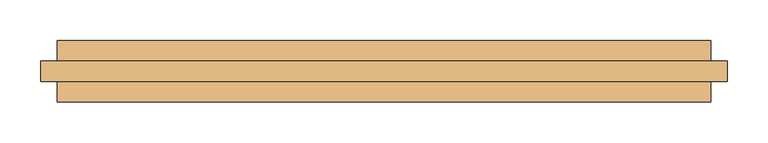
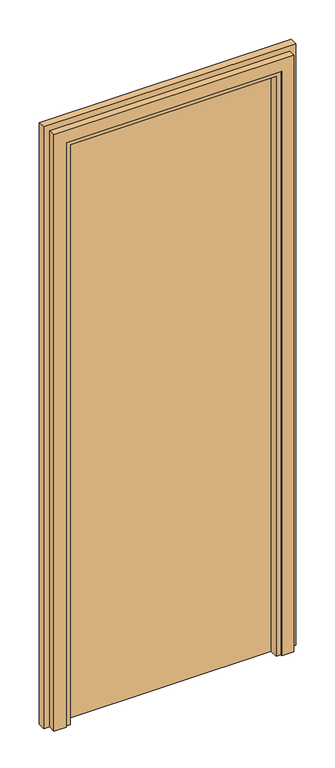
"""IFC4 building model written with IfcOpenShell, lengths in millimetres: door geometry, VERTI AERO - dveřní panel : AERO - dveřní panel."""

from ifc_helpers import new_model, si_unit, origin, origin_with_axes, place, context, project, spatial, polyline, outline, extrude, faceted_brep, source, transform, mapped, element, save


def door_f3fbb11f(model_context):
    return source(origin(), model_context, "Body", "SolidModel", [
        extrude(outline(polyline([(359.0, 37.5), (359.0, -2.5), (-359.0, -2.5), (-359.0, 37.5), (359.0, 37.5)])), origin_with_axes(), (0.0, 0.0, 1.0), 2084.0),
        faceted_brep([(-359.0, -37.5, 0.0), (-400.0, -37.5, 0.0), (-400.0, -12.5, 0.0), (-420.0, -12.5, 0.0), (-420.0, 12.5, 0.0), (-400.0, 12.5, 0.0), (-400.0, 37.5, 0.0), (-359.0, 37.5, 0.0), (-359.0, -2.5, 0.0), (-343.0, -2.5, 0.0), (-343.0, -32.5, 0.0), (-359.0, -32.5, 0.0), (-359.0, -37.5, 2059.0), (359.0, -37.5, 2059.0), (359.0, -37.5, 0.0), (400.0, -37.5, 0.0), (400.0, -37.5, 2100.0), (-400.0, -37.5, 2100.0), (-400.0, -12.5, 2100.0), (400.0, -12.5, 2100.0), (400.0, -12.5, 0.0), (420.0, -12.5, 0.0), (420.0, -12.5, 2120.0), (-420.0, -12.5, 2120.0), (-420.0, 12.5, 2120.0), (420.0, 12.5, 2120.0), (420.0, 12.5, 0.0), (400.0, 12.5, 0.0), (400.0, 12.5, 2100.0), (-400.0, 12.5, 2100.0), (-400.0, 37.5, 2100.0), (400.0, 37.5, 2100.0), (400.0, 37.5, 0.0), (359.0, 37.5, 0.0), (359.0, 37.5, 2059.0), (-359.0, 37.5, 2059.0), (-359.0, -2.5, 2059.0), (359.0, -2.5, 2059.0), (359.0, -2.5, 0.0), (343.0, -2.5, 0.0), (343.0, -2.5, 2043.0), (-343.0, -2.5, 2043.0), (-343.0, -32.5, 2043.0), (343.0, -32.5, 2043.0), (343.0, -32.5, 0.0), (359.0, -32.5, 0.0), (359.0, -32.5, 2059.0), (-359.0, -32.5, 2059.0)], [[[0, 1, 2, 3, 4, 5, 6, 7, 8, 9, 10, 11]], [[1, 0, 12, 13, 14, 15, 16, 17]], [[2, 1, 17, 18]], [[3, 2, 18, 19, 20, 21, 22, 23]], [[4, 3, 23, 24]], [[5, 4, 24, 25, 26, 27, 28, 29]], [[6, 5, 29, 30]], [[7, 6, 30, 31, 32, 33, 34, 35]], [[8, 7, 35, 36]], [[9, 8, 36, 37, 38, 39, 40, 41]], [[10, 9, 41, 42]], [[11, 10, 42, 43, 44, 45, 46, 47]], [[0, 11, 47, 12]], [[13, 46, 45, 14]], [[14, 45, 44, 39, 38, 33, 32, 27, 26, 21, 20, 15]], [[19, 16, 15, 20]], [[31, 28, 27, 32]], [[37, 34, 33, 38]], [[43, 40, 39, 44]], [[25, 22, 21, 26]], [[12, 47, 46, 13]], [[18, 17, 16, 19]], [[30, 29, 28, 31]], [[36, 35, 34, 37]], [[42, 41, 40, 43]], [[24, 23, 22, 25]]]),
    ])


if __name__ == "__main__":
    model = new_model("IFC4")
    model_context = context("Model", 3, world=origin())
    ifc_project = project(units=[si_unit("LENGTHUNIT", "METRE", prefix="MILLI")], contexts=[model_context])
    site = spatial("IfcSite", under=ifc_project)
    building = spatial("IfcBuilding", under=site)
    placement = place(None, origin())
    door_shape = door_f3fbb11f(model_context)
    element("IfcDoor", 1, ObjectType="VERTI AERO - dveřní panel : AERO - dveřní panel", at=placement, inside=building, context=model_context, shape_type="MappedRepresentation", body=[
        mapped(door_shape, transform((0.0, 0.0, 0.0), x_axis=(1.0, 0.0, 0.0), y_axis=(0.0, 1.0, 0.0), z_axis=(0.0, 0.0, 1.0))),
    ])
    save(model, "model.ifc")
